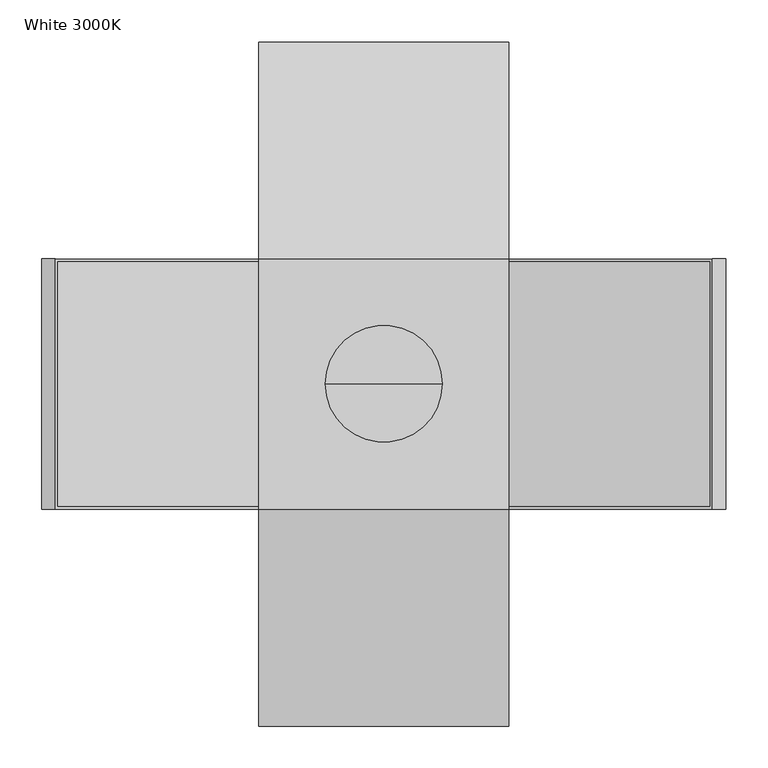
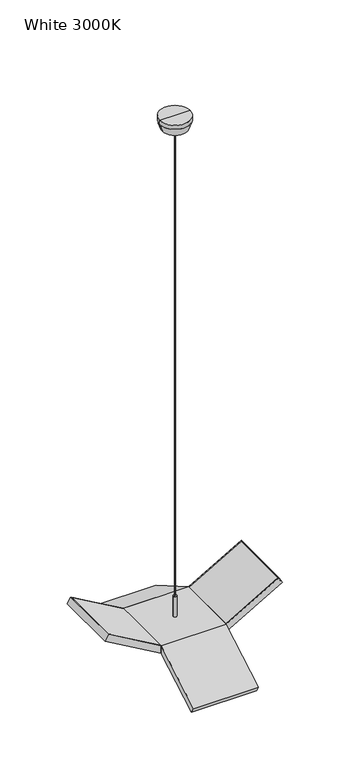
"""IFC4 building model written with IfcOpenShell, lengths in millimetres: light fixture geometry, Eagle%20Pendant : White 3000K."""

from ifc_helpers import new_model, si_unit, point, frame, origin, origin_2d, place, context, project, spatial, polyline, circle_curve, trimmed, segment, composite_curve, outline, extrude, faceted_brep, source, transform, mapped, element, save
from ifc_brep_helpers import plane_surface, cylinder_surface, revolved_surface, advanced_brep


def white_3000k_fac9a763(model_context):
    return source(origin(), model_context, "Body", "SolidModel", [
        extrude(outline(polyline([(150.0, -150.0), (-150.0, -150.0), (-150.0, 150.0), (150.0, 150.0), (150.0, -150.0)])), frame((0.0, 0.0, 140.2798014), z_axis=(0.0, 0.0, 1.0), x_axis=(1.0, 0.0, 0.0)), (0.0, 0.0, 1.0), 37.7201986),
        faceted_brep([(-150.0, -150.0, 140.2798014), (-150.0, -150.0, 178.0), (-393.6908449, -150.0, 318.2798014), (-410.0, -150.0, 289.9479122), (-150.0, 150.0, 140.2798014), (-410.0, 150.0, 289.9479122), (-393.6908449, 150.0, 318.2798014), (-150.0, 150.0, 178.0), (-405.9033313, -147.0, 291.0512277), (-391.0908527, -147.0, 316.7831248), (-150.0, -147.0, 178.0), (-150.0, -147.0, 143.7413503), (-405.9033313, 147.0, 291.0512277), (-150.0, 147.0, 143.7413503), (-150.0, 147.0, 178.0), (-391.0908527, 147.0, 316.7831248)], [[[0, 1, 2, 3]], [[4, 5, 6, 7]], [[8, 9, 10, 11]], [[12, 13, 14, 15]], [[1, 0, 4, 7, 14, 13, 11, 10]], [[2, 1, 10, 9, 15, 14, 7, 6]], [[3, 2, 6, 5]], [[0, 3, 5, 4]], [[8, 11, 13, 12]], [[9, 8, 12, 15]]]),
        faceted_brep([(150.0, -150.0, 140.2798014), (410.0, -150.0, 289.9479122), (393.6908449, -150.0, 318.2798014), (150.0, -150.0, 178.0), (150.0, 150.0, 140.2798014), (150.0, 150.0, 178.0), (393.6908449, 150.0, 318.2798014), (410.0, 150.0, 289.9479122), (405.9033313, -147.0, 291.0512277), (150.0, -147.0, 143.7413503), (150.0, -147.0, 178.0), (391.0908527, -147.0, 316.7831248), (405.9033313, 147.0, 291.0512277), (391.0908527, 147.0, 316.7831248), (150.0, 147.0, 178.0), (150.0, 147.0, 143.7413503)], [[[0, 1, 2, 3]], [[4, 5, 6, 7]], [[8, 9, 10, 11]], [[12, 13, 14, 15]], [[1, 0, 4, 7]], [[2, 1, 7, 6]], [[3, 2, 6, 5, 14, 13, 11, 10]], [[0, 3, 10, 9, 15, 14, 5, 4]], [[8, 11, 13, 12]], [[9, 8, 12, 15]]]),
        extrude(outline(polyline([(178.0, -150.0), (316.7831248, -391.0908527), (315.9164608, -391.5897449), (176.8461504, -150.0), (178.0, -150.0)])), frame((0.0, -147.0, 0.0), z_axis=(0.0, 1.0, 0.0), x_axis=(0.0, 0.0, 1.0)), (0.0, 0.0, 1.0), 294.0),
        extrude(outline(polyline([(178.0, 150.0), (176.8461504, 150.0), (315.9164608, 391.5897449), (316.7831248, 391.0908527), (178.0, 150.0)])), frame((0.0, -147.0, 0.0), z_axis=(0.0, 1.0, 0.0), x_axis=(0.0, 0.0, 1.0)), (0.0, 0.0, 1.0), 294.0),
        faceted_brep([(150.0, 150.0, 178.0), (150.0, 150.0, 140.2798014), (150.0, 393.6908449, 0.0), (150.0, 410.0, 28.3318892), (-150.0, 150.0, 178.0), (-150.0, 410.0, 28.3318892), (-150.0, 393.6908449, 0.0), (-150.0, 150.0, 140.2798014), (-147.0, 150.0, 140.2798014), (-147.0, 150.0, 174.5384511), (147.0, 150.0, 174.5384511), (147.0, 150.0, 140.2798014), (147.0, 391.0908527, 1.4966766), (-147.0, 391.0908527, 1.4966766), (147.0, 405.9033313, 27.2285737), (-147.0, 405.9033313, 27.2285737)], [[[0, 1, 2, 3]], [[4, 5, 6, 7]], [[1, 0, 4, 7, 8, 9, 10, 11]], [[2, 1, 11, 12, 13, 8, 7, 6]], [[3, 2, 6, 5]], [[0, 3, 5, 4]], [[14, 12, 11, 10]], [[15, 9, 8, 13]], [[14, 10, 9, 15]], [[12, 14, 15, 13]]]),
        faceted_brep([(150.0, -150.0, 178.0), (150.0, -410.0, 28.3318892), (150.0, -393.6908449, 0.0), (150.0, -150.0, 140.2798014), (-150.0, -150.0, 178.0), (-150.0, -150.0, 140.2798014), (-150.0, -393.6908449, 0.0), (-150.0, -410.0, 28.3318892), (-147.0, -150.0, 140.2798014), (-147.0, -391.0908527, 1.4966766), (147.0, -391.0908527, 1.4966766), (147.0, -150.0, 140.2798014), (147.0, -150.0, 174.5384511), (-147.0, -150.0, 174.5384511), (147.0, -405.9033313, 27.2285737), (-147.0, -405.9033313, 27.2285737)], [[[0, 1, 2, 3]], [[4, 5, 6, 7]], [[1, 0, 4, 7]], [[2, 1, 7, 6]], [[3, 2, 6, 5, 8, 9, 10, 11]], [[0, 3, 11, 12, 13, 8, 5, 4]], [[14, 12, 11, 10]], [[15, 9, 8, 13]], [[14, 10, 9, 15]], [[12, 14, 15, 13]]]),
        extrude(outline(polyline([(150.0, 140.2798014), (150.0, 141.433651), (391.5897449, 2.3633406), (391.0908527, 1.4966766), (150.0, 140.2798014)])), frame((-147.0, 0.0, 0.0), z_axis=(1.0, 0.0, 0.0), x_axis=(0.0, 1.0, 0.0)), (0.0, 0.0, 1.0), 294.0),
        extrude(outline(polyline([(-150.0, 140.2798014), (-391.0908527, 1.4966766), (-391.5897449, 2.3633406), (-150.0, 141.433651), (-150.0, 140.2798014)])), frame((-147.0, 0.0, 0.0), z_axis=(1.0, 0.0, 0.0), x_axis=(0.0, 1.0, 0.0)), (0.0, 0.0, 1.0), 294.0),
        advanced_brep(
        [(0.0, 0.0, 2620.0), (70.0, 0.0, 2620.0), (-70.0, 0.0, 2620.0), (-58.0, 0.0, 2562.0), (58.0, 0.0, 2562.0), (0.0, 0.0, 2562.0), (-70.0, 0.0, 2600.0), (70.0, 0.0, 2600.0)],
        [
            (0, 1),
            (1, 2, circle_curve(frame((0.0, 0.0, 2620.0), z_axis=(0.0, 0.0, 1.0), x_axis=(1.0, 0.0, 0.0)), 70.0)),
            (2, 0),
            (2, 1, circle_curve(frame((0.0, 0.0, 2620.0), z_axis=(0.0, 0.0, 1.0), x_axis=(1.0, 0.0, 0.0)), 70.0)),
            (3, 4, circle_curve(frame((0.0, 0.0, 2562.0), z_axis=(0.0, 0.0, -1.0), x_axis=(1.0, 0.0, 0.0)), 58.0)),
            (4, 5),
            (5, 3),
            (4, 3, circle_curve(frame((0.0, 0.0, 2562.0), z_axis=(0.0, 0.0, -1.0), x_axis=(1.0, 0.0, 0.0)), 58.0)),
            (6, 7, circle_curve(frame((0.0, 0.0, 2600.0), z_axis=(0.0, 0.0, -1.0), x_axis=(1.0, 0.0, 0.0)), 70.0)),
            (7, 4),
            (3, 6),
            (7, 6, circle_curve(frame((0.0, 0.0, 2600.0), z_axis=(0.0, 0.0, -1.0), x_axis=(1.0, 0.0, 0.0)), 70.0)),
            (1, 7),
            (6, 2),
        ],
        [
            plane_surface(frame((0.0, 0.0, 2620.0), z_axis=(0.0, 0.0, 1.0), x_axis=(1.0, 0.0, 0.0))),
            plane_surface(frame((0.0, 0.0, 2562.0), z_axis=(0.0, 0.0, -1.0), x_axis=(1.0, 0.0, 0.0))),
            revolved_surface(polyline([(58.0, 0.0, 2562.0), (70.0, 0.0, 2600.0)]), (0.0, 0.0, 2660.0), (0.0, 0.0, 1.0)),
            cylinder_surface(frame((0.0, 0.0, 2660.0), z_axis=(0.0, 0.0, 1.0), x_axis=(1.0, 0.0, 0.0)), 70.0),
        ],
        [
            (0, [[1, 2, 3]]),
            (0, [[-3, 4, -1]]),
            (1, [[5, 6, 7]]),
            (1, [[8, -7, -6]]),
            (2, [[9, 10, -5, 11]]),
            (2, [[12, -11, -8, -10]]),
            (3, [[-2, 13, -9, 14]]),
            (3, [[-4, -14, -12, -13]]),
        ],
    ),
        extrude(outline(composite_curve([segment(trimmed(circle_curve(origin_2d(), 8.0), [point((-8.0, 0.0))], [point((8.0, 0.0))], False, "CARTESIAN"), True, "CONTINUOUS"), segment(trimmed(circle_curve(origin_2d(), 8.0), [point((8.0, 0.0))], [point((-8.0, 0.0))], False, "CARTESIAN"), True, "CONTINUOUS")], self_intersect=False)), frame((0.0, 0.0, 178.0), z_axis=(0.0, 0.0, 1.0), x_axis=(1.0, 0.0, 0.0)), (0.0, 0.0, 1.0), 100.0),
        extrude(outline(composite_curve([segment(trimmed(circle_curve(origin_2d(), 2.0), [point((-2.0, 0.0))], [point((2.0, 0.0))], False, "CARTESIAN"), True, "CONTINUOUS"), segment(trimmed(circle_curve(origin_2d(), 2.0), [point((2.0, 0.0))], [point((-2.0, 0.0))], False, "CARTESIAN"), True, "CONTINUOUS")], self_intersect=False)), frame((0.0, 0.0, 278.0), z_axis=(0.0, 0.0, 1.0), x_axis=(1.0, 0.0, 0.0)), (0.0, 0.0, 1.0), 2284.0),
    ])


if __name__ == "__main__":
    model = new_model("IFC4")
    model_context = context("Model", 3, world=origin())
    ifc_project = project(units=[si_unit("LENGTHUNIT", "METRE", prefix="MILLI")], contexts=[model_context])
    site = spatial("IfcSite", under=ifc_project)
    building = spatial("IfcBuilding", under=site)
    placement = place(None, origin())
    white_3000k_shape = white_3000k_fac9a763(model_context)
    element("IfcLightFixture", 1, ObjectType="Eagle%20Pendant : White 3000K", at=placement, inside=building, context=model_context, shape_type="MappedRepresentation", body=[
        mapped(white_3000k_shape, transform((0.0, 0.0, 0.0), x_axis=(1.0, 0.0, 0.0), y_axis=(0.0, 1.0, 0.0), z_axis=(0.0, 0.0, 1.0))),
    ])
    save(model, "model.ifc")
